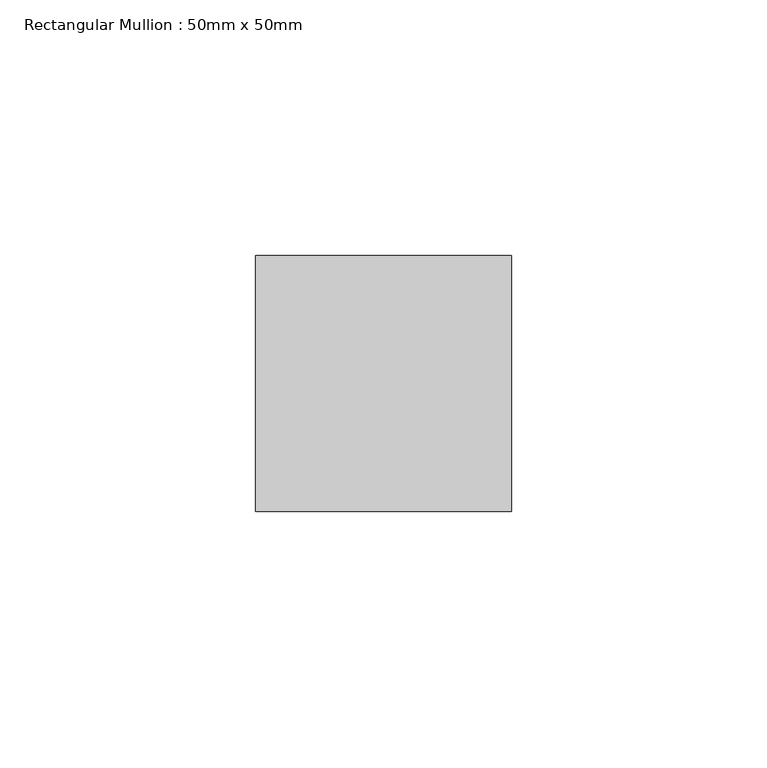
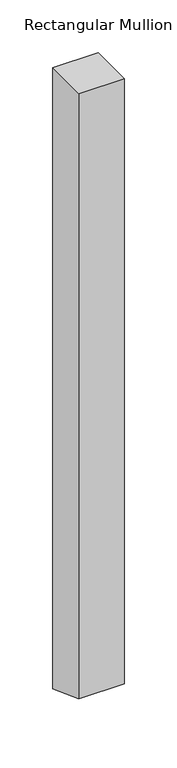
"""IFC4 building model written with IfcOpenShell, lengths in millimetres: member geometry, Rectangular Mullion : 50mm x 50mm."""

import ifcopenshell
import ifcopenshell.guid

model = None  # the IFC model being written
_history = None  # IfcOwnerHistory: only IFC2X3 demands one
_inside = {}  # id of a spatial element -> (the spatial element, [elements in it])
_under = {}  # id of a project, library or spatial element -> (it, [spatial elements below it])
_declared = {}  # id of a project -> (the project, [libraries it declares])
_typed = {}  # id of a type object -> (the type object, [elements of that type])
_made_of = {}  # id of a material, layer set ... -> (it, [elements and type objects made of it])


def new_model(schema):
    """Start an empty IFC model of exactly this schema.

    Asked for "IFC4X3", IfcOpenShell would pick the latest addendum, in which some entities
    have other attributes; the version numbers below select the first issue.
    IFC2X3 requires an IfcOwnerHistory on every rooted entity: one is made here for all.
    """
    global model, _history
    if schema == "IFC4X3":
        model = ifcopenshell.file(schema_version=(4, 3, 0, 0))
    else:
        model = ifcopenshell.file(schema=schema)
    _inside.clear()
    _under.clear()
    _declared.clear()
    _typed.clear()
    _made_of.clear()
    _history = None
    if model.schema == "IFC2X3":
        org = make("IfcOrganization", Name="unknown")
        user = make(
            "IfcPersonAndOrganization",
            ThePerson=make("IfcPerson", FamilyName="unknown"),
            TheOrganization=org,
        )
        app = make(
            "IfcApplication",
            ApplicationDeveloper=org,
            Version="unknown",
            ApplicationFullName="unknown",
            ApplicationIdentifier="unknown",
        )
        _history = make(
            "IfcOwnerHistory",
            OwningUser=user,
            OwningApplication=app,
            ChangeAction="ADDED",
            CreationDate=0,
        )
    return model


def make(cls, **values):
    """One entity of the class cls with the attributes given. An attribute that is None is left unset."""
    return model.create_entity(
        cls, **{name: value for name, value in values.items() if value is not None}
    )


def rooted(cls, **values):
    """An entity with a GlobalId (a new one), such as an element, a storey or a relation."""
    return make(cls, GlobalId=ifcopenshell.guid.new(), OwnerHistory=_history, **values)


def si_unit(unit_type, name, prefix=None):
    """IfcSIUnit, for example si_unit("LENGTHUNIT", "METRE", prefix="MILLI")."""
    return make("IfcSIUnit", UnitType=unit_type, Prefix=prefix, Name=name)


def assignment(units):
    """IfcUnitAssignment: the units of a project."""
    return None if units is None else make("IfcUnitAssignment", Units=units)


def point(xyz):
    """IfcCartesianPoint."""
    return None if xyz is None else make("IfcCartesianPoint", Coordinates=xyz)


def direction(xyz):
    """IfcDirection."""
    return None if xyz is None else make("IfcDirection", DirectionRatios=xyz)


def frame(location, z_axis=None, x_axis=None):
    """IfcAxis2Placement3D, a coordinate frame: its origin and axes. An axis left out is left unset."""
    return make(
        "IfcAxis2Placement3D",
        Location=point(location),
        Axis=direction(z_axis),
        RefDirection=direction(x_axis),
    )


def origin():
    """The frame at (0, 0, 0) with its axes left unset."""
    return frame((0.0, 0.0, 0.0))


def place(relative_to, where):
    """IfcLocalPlacement: puts the frame where relative to a parent placement (None: the world)."""
    return make(
        "IfcLocalPlacement", PlacementRelTo=relative_to, RelativePlacement=where
    )


def context(
    kind, dimensions, precision=None, world=None, true_north=None, identifier=None
):
    """IfcGeometricRepresentationContext, for example the 3D "Model" context."""
    return make(
        "IfcGeometricRepresentationContext",
        ContextIdentifier=identifier,
        ContextType=kind,
        CoordinateSpaceDimension=dimensions,
        Precision=precision,
        WorldCoordinateSystem=world,
        TrueNorth=true_north,
    )


def project(units=None, contexts=None):
    """IfcProject with its units and contexts."""
    return rooted(
        "IfcProject",
        Name="project",
        RepresentationContexts=contexts,
        UnitsInContext=assignment(units),
    )


def spatial(cls, under=None, at=None, **own):
    """A site, building, storey or space (cls), placed at a placement, below another one or the project."""
    s = rooted(cls, ObjectPlacement=at, **own)
    if under is not None:
        _under.setdefault(under.id(), (under, []))[1].append(s)
    return s


def polyline(points):
    """IfcPolyline through the points."""
    return make("IfcPolyline", Points=[point(p) for p in points])


def outline(outer, holes=None, kind="AREA"):
    """IfcArbitraryClosedProfileDef: a profile drawn as a closed curve; with holes, ...WithVoids."""
    if holes is None:
        return make("IfcArbitraryClosedProfileDef", ProfileType=kind, OuterCurve=outer)
    return make(
        "IfcArbitraryProfileDefWithVoids",
        ProfileType=kind,
        OuterCurve=outer,
        InnerCurves=holes,
    )


def extrude(swept, where, along, depth):
    """IfcExtrudedAreaSolid: the profile swept, set in the frame where, extruded along a direction by depth."""
    return make(
        "IfcExtrudedAreaSolid",
        SweptArea=swept,
        Position=where,
        ExtrudedDirection=direction(along),
        Depth=depth,
    )


def shape(context_of_items, identifier, shape_type, items):
    """IfcShapeRepresentation: the items that make up one representation, for example the "Body"."""
    return make(
        "IfcShapeRepresentation",
        ContextOfItems=context_of_items,
        RepresentationIdentifier=identifier,
        RepresentationType=shape_type,
        Items=items,
    )


def source(mapping_origin, context_of_items, identifier, shape_type, items):
    """IfcRepresentationMap: a shape defined once, which mapped items show again and again."""
    return make(
        "IfcRepresentationMap",
        MappingOrigin=mapping_origin,
        MappedRepresentation=shape(context_of_items, identifier, shape_type, items),
    )


def transform(
    local_origin,
    x_axis=None,
    y_axis=None,
    z_axis=None,
    scale=None,
    scale2=None,
    scale3=None,
    uniform=True,
):
    """IfcCartesianTransformationOperator3D, or its non-uniform kind. x_axis, y_axis, z_axis: its Axis1, 2, 3."""
    if uniform:
        return make(
            "IfcCartesianTransformationOperator3D",
            Axis1=direction(x_axis),
            Axis2=direction(y_axis),
            LocalOrigin=point(local_origin),
            Scale=scale,
            Axis3=direction(z_axis),
        )
    return make(
        "IfcCartesianTransformationOperator3DnonUniform",
        Axis1=direction(x_axis),
        Axis2=direction(y_axis),
        LocalOrigin=point(local_origin),
        Scale=scale,
        Axis3=direction(z_axis),
        Scale2=scale2,
        Scale3=scale3,
    )


def mapped(mapping_source, mapping_target):
    """IfcMappedItem: shows the shape of a source again, moved by a transform."""
    return make(
        "IfcMappedItem", MappingSource=mapping_source, MappingTarget=mapping_target
    )


def made_of(thing, what):
    """Note that an element or type object is made of a material, layer set ...; save() writes the relation."""
    if what is not None:
        _made_of.setdefault(what.id(), (what, []))[1].append(thing)
    return thing


def element(
    cls,
    number,
    at=None,
    inside=None,
    cuts=None,
    type_object=None,
    material=None,
    context=None,
    identifier="Body",
    shape_type=None,
    held_by="IfcProductDefinitionShape",
    body=None,
    shapes=None,
    **own,
):
    """One element of the class cls, such as IfcWall. Its Tag is "e" and its number.

    at: its placement. inside: the storey or other place that contains it. cuts: it is an
    opening in that element (IfcRelVoidsElement). A single representation is given by context,
    identifier, shape_type and body (its items); several are given by shapes. held_by: the class
    of the entity that holds the representations. save() writes the other relations.
    """
    e = rooted(cls, Tag="e%d" % number, ObjectPlacement=at, **own)
    if body is not None:
        shapes = [shape(context, identifier, shape_type, body)]
    if shapes is not None:
        e.Representation = make(held_by, Representations=shapes)
    if inside is not None:
        _inside.setdefault(inside.id(), (inside, []))[1].append(e)
    if cuts is not None:
        rooted(
            "IfcRelVoidsElement", RelatingBuildingElement=cuts, RelatedOpeningElement=e
        )
    if type_object is not None:
        _typed.setdefault(type_object.id(), (type_object, []))[1].append(e)
    return made_of(e, material)


def aggregate(whole, parts):
    """IfcRelAggregates: a whole, such as a stair, and the parts it consists of."""
    return rooted("IfcRelAggregates", RelatingObject=whole, RelatedObjects=parts)


def save(model, path):
    """Write the relations noted so far, then the file.

    IfcRelAggregates (storeys below a building ...), IfcRelContainedInSpatialStructure (elements
    in a storey), IfcRelDefinesByType, IfcRelAssociatesMaterial and IfcRelDeclares: one each for
    every whole, place, type object, material and project.
    """
    for whole, parts in _under.values():
        aggregate(whole, parts)
    for where, things in _inside.values():
        rooted(
            "IfcRelContainedInSpatialStructure",
            RelatedElements=things,
            RelatingStructure=where,
        )
    for kind, things in _typed.values():
        rooted("IfcRelDefinesByType", RelatedObjects=things, RelatingType=kind)
    for what, things in _made_of.values():
        rooted("IfcRelAssociatesMaterial", RelatedObjects=things, RelatingMaterial=what)
    for by, libraries in _declared.values():
        rooted("IfcRelDeclares", RelatingContext=by, RelatedDefinitions=libraries)
    model.write(path)


def rectangular_mullion_50mm_x_50mm_aca234d1(model_context):
    return source(origin(), model_context, "Body", "SweptSolid", [
        extrude(outline(polyline([(-25.0, 0.0), (25.0, 0.0), (25.0, -722.2380728), (-25.0, -703.5509563), (-25.0, 0.0)])), frame((-50.0, 0.0, 0.0), z_axis=(1.0, 0.0, 0.0), x_axis=(0.0, 1.0, 0.0)), (0.0, 0.0, 1.0), 50.0),
    ])


if __name__ == "__main__":
    model = new_model("IFC4")
    model_context = context("Model", 3, world=origin())
    ifc_project = project(units=[si_unit("LENGTHUNIT", "METRE", prefix="MILLI")], contexts=[model_context])
    site = spatial("IfcSite", under=ifc_project)
    building = spatial("IfcBuilding", under=site)
    placement = place(None, origin())
    rectangular_mullion_50mm_x_50mm_shape = rectangular_mullion_50mm_x_50mm_aca234d1(model_context)
    element("IfcMember", 1, ObjectType="Rectangular Mullion : 50mm x 50mm", at=placement, inside=building, context=model_context, shape_type="MappedRepresentation", body=[
        mapped(rectangular_mullion_50mm_x_50mm_shape, transform((0.0, 0.0, 0.0), x_axis=(1.0, 0.0, 0.0), y_axis=(0.0, 1.0, 0.0), z_axis=(0.0, 0.0, 1.0))),
    ])
    save(model, "model.ifc")
